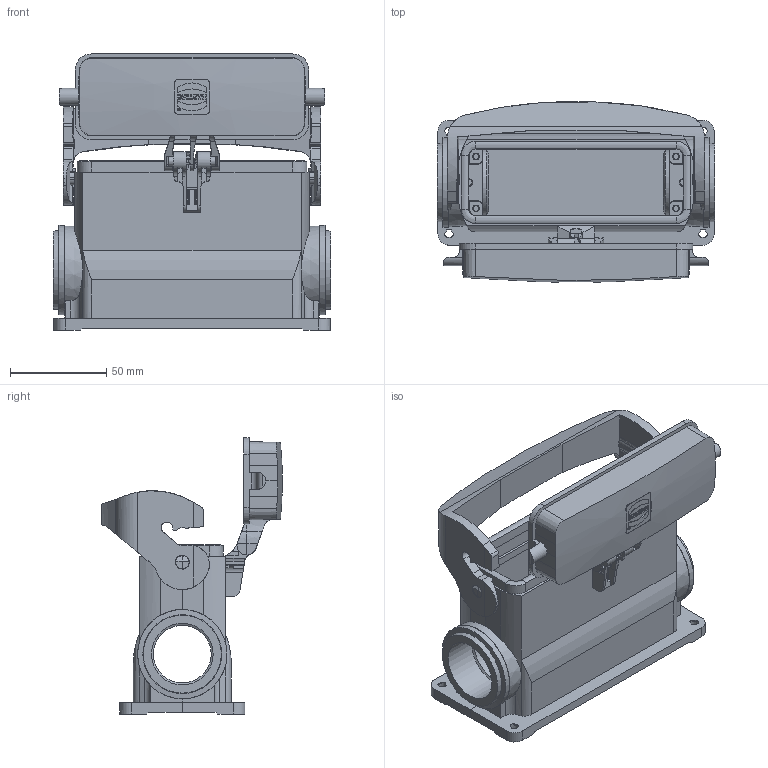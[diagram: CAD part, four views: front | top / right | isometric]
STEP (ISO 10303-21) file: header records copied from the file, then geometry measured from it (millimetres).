
FILE_DESCRIPTION(/* description */ (''),/* implementation_level */ '2;1');
FILE_NAME(/* name */ '100778473ugm000_c.stp',/* time_stamp */ '2022-03-12T07:52:59+01:00',/* author */ (''),/* organization */ (''),/* preprocessor_version */ 'ST-DEVELOPER v16.7',/* originating_system */ 'SIEMENS PLM Software NX 1911',/* authorisation */ '');
FILE_SCHEMA (('AUTOMOTIVE_DESIGN { 1 0 10303 214 3 1 1 1 }'));
Length unit declared in the file: millimetre
Products named in the file (1): 100778473ugm000_c
Bounding box: 144.3 x 93.81 x 143.5 mm (x, y, z)
Volume: 63982.4 mm3; surface area: 117896 mm2
Topology: 2 solids, 489 shells, 842 faces, 3683 edges, 3315 vertices
Faces by surface type: plane 554, cylinder 189, cone 62, bspline 26, extrusion 7, torus 4
Full cylindrical faces by diameter (mm): 1.006 x1, 1.477 x1, 3 x4, 3.5 x4, 4.8 x2, 7.2 x2, 30 x2, 32 x2, 46.4 x2
Entity records: 50494 total; most frequent: CARTESIAN_POINT 11613, DIRECTION 5818, ORIENTED_EDGE 4610, EDGE_CURVE 3633, VERTEX_POINT 3298, VECTOR 2356, LINE 2349, AXIS2_PLACEMENT_3D 1731
